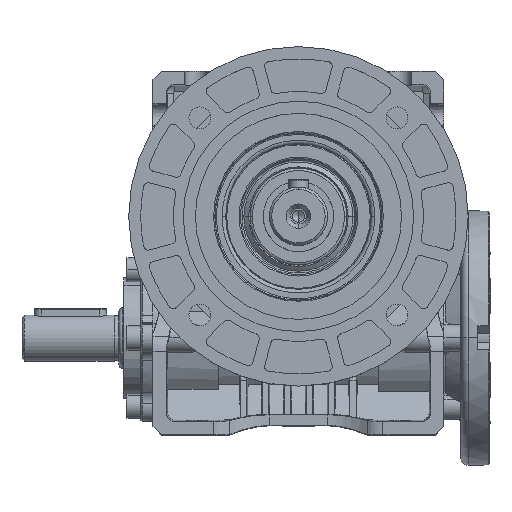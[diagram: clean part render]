
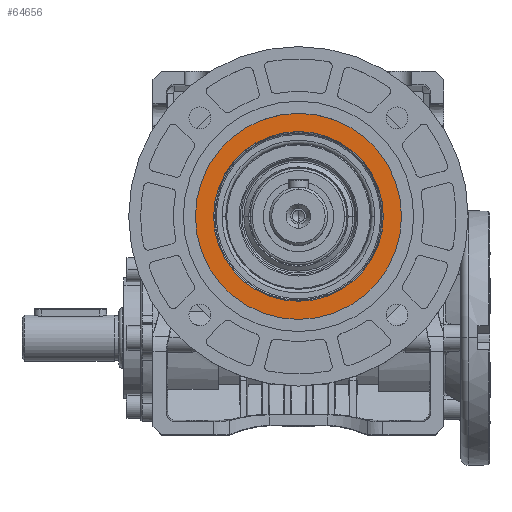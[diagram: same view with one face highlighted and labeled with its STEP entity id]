
A CAD part, top view. The second image highlights one B-rep face of the part: STEP entity #64656.
In plain terms, the highlighted planar face has unit normal (0, 0, 1).
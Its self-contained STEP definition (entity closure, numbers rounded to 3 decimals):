
#4099 = DIRECTION ( 'NONE',  ( 0., 0., -1. ) ) ;
#6375 = DIRECTION ( 'NONE',  ( 1., 0., 0. ) ) ;
#9443 = EDGE_CURVE ( 'NONE', #64416, #58766, #129007, .T. ) ;
#16256 = CIRCLE ( 'NONE', #66136, 42.5 ) ;
#21366 = ORIENTED_EDGE ( 'NONE', *, *, #79578, .F. ) ;
#22079 = AXIS2_PLACEMENT_3D ( 'NONE', #28091, #100129, #6375 ) ;
#23349 = CARTESIAN_POINT ( 'NONE',  ( -35., 0., 96. ) ) ;
#24503 = FACE_OUTER_BOUND ( 'NONE', #115371, .T. ) ;
#26234 = DIRECTION ( 'NONE',  ( 0., 0., -1. ) ) ;
#28091 = CARTESIAN_POINT ( 'NONE',  ( 0., 0., 96. ) ) ;
#29213 = AXIS2_PLACEMENT_3D ( 'NONE', #33459, #125159, #116986 ) ;
#33459 = CARTESIAN_POINT ( 'NONE',  ( 0., 0., 96. ) ) ;
#34357 = CARTESIAN_POINT ( 'NONE',  ( 0., 0., 96. ) ) ;
#36303 = ORIENTED_EDGE ( 'NONE', *, *, #68403, .T. ) ;
#38460 = CIRCLE ( 'NONE', #47100, 35. ) ;
#45215 = VERTEX_POINT ( 'NONE', #23349 ) ;
#47100 = AXIS2_PLACEMENT_3D ( 'NONE', #80117, #121527, #90967 ) ;
#55702 = FACE_BOUND ( 'NONE', #126713, .T. ) ;
#58766 = VERTEX_POINT ( 'NONE', #128915 ) ;
#64416 = VERTEX_POINT ( 'NONE', #101307 ) ;
#64656 = ADVANCED_FACE ( 'NONE', ( #24503, #55702 ), #76148, .F. ) ;
#65969 = DIRECTION ( 'NONE',  ( 1., 0., 0. ) ) ;
#66136 = AXIS2_PLACEMENT_3D ( 'NONE', #34357, #26234, #118555 ) ;
#68403 = EDGE_CURVE ( 'NONE', #45215, #128748, #69902, .T. ) ;
#69902 = CIRCLE ( 'NONE', #22079, 35. ) ;
#74561 = CARTESIAN_POINT ( 'NONE',  ( 35., 0., 96. ) ) ;
#76148 = PLANE ( 'NONE',  #119259 ) ;
#79578 = EDGE_CURVE ( 'NONE', #58766, #64416, #16256, .T. ) ;
#80117 = CARTESIAN_POINT ( 'NONE',  ( 0., 0., 96. ) ) ;
#82963 = EDGE_CURVE ( 'NONE', #128748, #45215, #38460, .T. ) ;
#90967 = DIRECTION ( 'NONE',  ( 1., 0., 0. ) ) ;
#97161 = CARTESIAN_POINT ( 'NONE',  ( 0., -42.5, 96. ) ) ;
#100129 = DIRECTION ( 'NONE',  ( 0., 0., -1. ) ) ;
#101307 = CARTESIAN_POINT ( 'NONE',  ( 42.5, 0., 96. ) ) ;
#112574 = ORIENTED_EDGE ( 'NONE', *, *, #9443, .F. ) ;
#115371 = EDGE_LOOP ( 'NONE', ( #112574, #21366 ) ) ;
#116986 = DIRECTION ( 'NONE',  ( 1., 0., 0. ) ) ;
#117365 = ORIENTED_EDGE ( 'NONE', *, *, #82963, .T. ) ;
#118555 = DIRECTION ( 'NONE',  ( 1., 0., 0. ) ) ;
#119259 = AXIS2_PLACEMENT_3D ( 'NONE', #97161, #4099, #65969 ) ;
#121527 = DIRECTION ( 'NONE',  ( 0., 0., -1. ) ) ;
#125159 = DIRECTION ( 'NONE',  ( 0., 0., -1. ) ) ;
#126713 = EDGE_LOOP ( 'NONE', ( #117365, #36303 ) ) ;
#128748 = VERTEX_POINT ( 'NONE', #74561 ) ;
#128915 = CARTESIAN_POINT ( 'NONE',  ( -42.5, 0., 96. ) ) ;
#129007 = CIRCLE ( 'NONE', #29213, 42.5 ) ;
